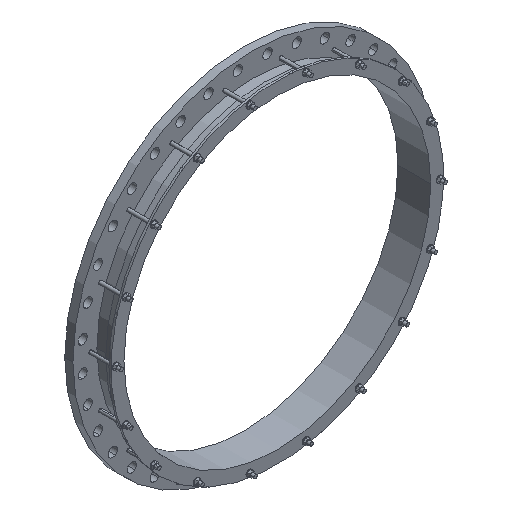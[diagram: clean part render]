
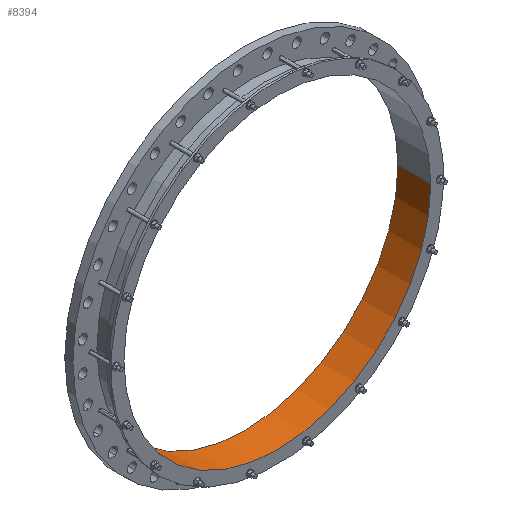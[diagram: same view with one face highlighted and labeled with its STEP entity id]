
A CAD part, isometric view. The second image highlights one B-rep face of the part: STEP entity #8394.
In plain terms, the highlighted cylindrical face has radius 714.75 mm (diameter 1429.5 mm), a partial arc.
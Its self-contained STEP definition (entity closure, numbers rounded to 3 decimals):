
#7=CARTESIAN_POINT('',(0.,38.,0.));
#8=DIRECTION('',(0.,1.,0.));
#9=DIRECTION('',(1.,0.,0.));
#10=AXIS2_PLACEMENT_3D('',#7,#8,#9);
#3113=CARTESIAN_POINT('',(0.,-115.,0.));
#3114=DIRECTION('',(0.,1.,0.));
#3115=DIRECTION('',(1.,0.,0.));
#3116=AXIS2_PLACEMENT_3D('',#3113,#3114,#3115);
#3118=DIRECTION('',(0.,1.,0.));
#3119=VECTOR('',#3118,153.);
#3120=CARTESIAN_POINT('',(714.75,-115.,0.));
#3121=LINE('',#3120,#3119);
#3122=DIRECTION('',(0.,1.,0.));
#3123=VECTOR('',#3122,153.);
#3124=CARTESIAN_POINT('',(-714.75,-115.,0.));
#3125=LINE('',#3124,#3123);
#5802=CARTESIAN_POINT('',(714.75,-115.,0.));
#5803=CARTESIAN_POINT('',(714.75,38.,0.));
#5804=VERTEX_POINT('',#5802);
#5805=VERTEX_POINT('',#5803);
#5810=CARTESIAN_POINT('',(-714.75,-115.,0.));
#5811=CARTESIAN_POINT('',(-714.75,38.,0.));
#5812=VERTEX_POINT('',#5810);
#5813=VERTEX_POINT('',#5811);
#8381=CARTESIAN_POINT('',(0.,-122.65,0.));
#8382=DIRECTION('',(0.,1.,0.));
#8383=DIRECTION('',(-1.,0.,0.));
#8384=AXIS2_PLACEMENT_3D('',#8381,#8382,#8383);
#8385=CYLINDRICAL_SURFACE('',#8384,714.75);
#8387=ORIENTED_EDGE('',*,*,#8386,.F.);
#8388=ORIENTED_EDGE('',*,*,#8374,.T.);
#8390=ORIENTED_EDGE('',*,*,#8389,.T.);
#8391=ORIENTED_EDGE('',*,*,#7101,.F.);
#8392=EDGE_LOOP('',(#8387,#8388,#8390,#8391));
#8393=FACE_OUTER_BOUND('',#8392,.F.);
#8394=ADVANCED_FACE('',(#8393),#8385,.F.);
#11=CIRCLE('',#10,714.75);
#3117=CIRCLE('',#3116,714.75);
#7101=EDGE_CURVE('',#5805,#5813,#11,.T.);
#8374=EDGE_CURVE('',#5804,#5812,#3117,.T.);
#8386=EDGE_CURVE('',#5804,#5805,#3121,.T.);
#8389=EDGE_CURVE('',#5812,#5813,#3125,.T.);
